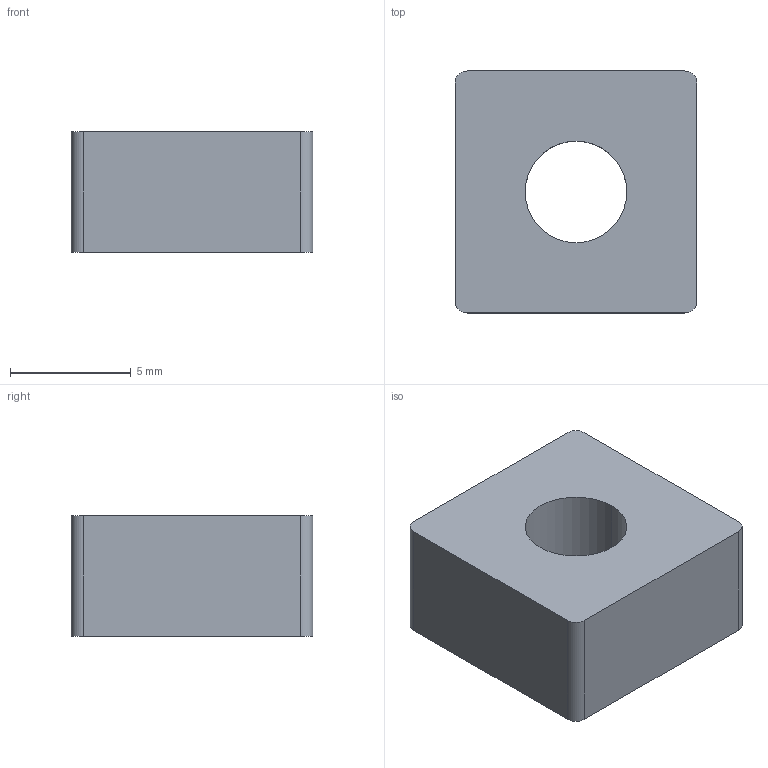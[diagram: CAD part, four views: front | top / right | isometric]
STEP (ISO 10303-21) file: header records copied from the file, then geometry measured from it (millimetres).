
FILE_DESCRIPTION (( 'STEP AP214' ), '1' );
FILE_NAME ('J3N5.step', '2017-05-24T07:39:53', ( 'admin' ), ( '' ), 'SwSTEP 2.0', 'SolidWorks 2014', '' );
FILE_SCHEMA (( 'AUTOMOTIVE_DESIGN' ));
Length unit declared in the file: millimetre
Products named in the file (1): J3N5
Bounding box: 10 x 10 x 5 mm (x, y, z)
Volume: 429.7 mm3; surface area: 433.5 mm2
Topology: 1 solids, 1 shells, 12 faces, 30 edges, 20 vertices
Faces by surface type: cylinder 6, plane 6
Entity records: 426 total; most frequent: DIRECTION 68, CARTESIAN_POINT 63, ORIENTED_EDGE 60, EDGE_CURVE 30, AXIS2_PLACEMENT_3D 25, VERTEX_POINT 20, LINE 18, VECTOR 18
